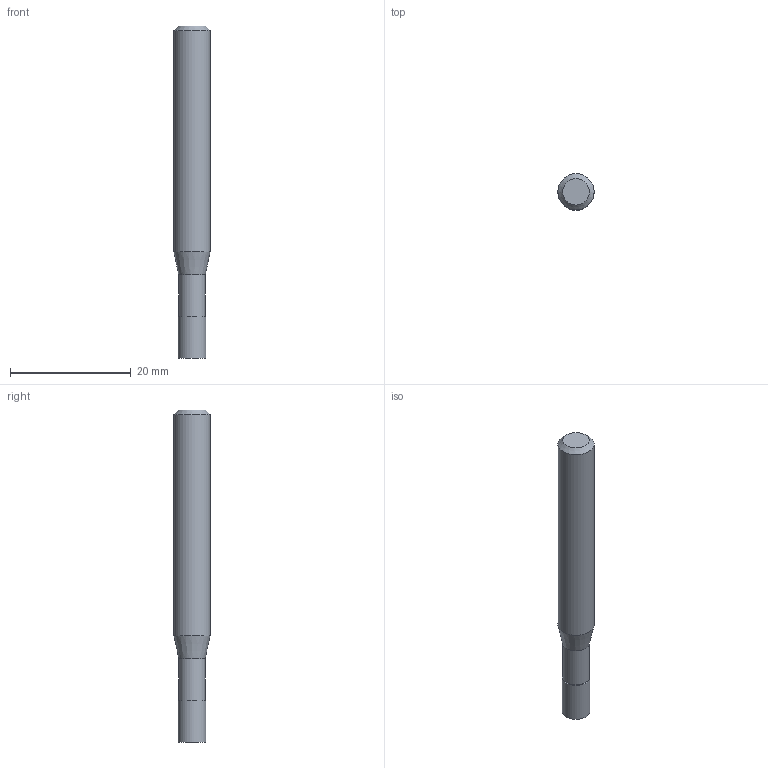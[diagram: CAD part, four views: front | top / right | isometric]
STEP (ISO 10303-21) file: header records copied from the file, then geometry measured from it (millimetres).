
FILE_DESCRIPTION((''),'2;1');
FILE_NAME('C:\Users\nsx150\AppData\Local\Temp\Mastercam 2021\EUJSUNXURU\TEMP.step','2021-04-22T10:28:25',(''),(''),'STEP Write','Mastercam 2021 ... CNC Software, Inc.','');
FILE_SCHEMA(('AUTOMOTIVE_DESIGN'));
Length unit declared in the file: millimetre
Products named in the file (1): None
Bounding box: 6 x 6 x 55 mm (x, y, z)
Volume: 1353.1 mm3; surface area: 1030.7 mm2
Topology: 2 solids, 2 shells, 9 faces, 12 edges, 7 vertices
Faces by surface type: plane 4, cylinder 3, cone 2
Full cylindrical faces by diameter (mm): 4.4 x1, 4.6 x1, 6 x1
Entity records: 211 total; most frequent: DIRECTION 36, CARTESIAN_POINT 25, AXIS2_PLACEMENT_3D 18, ORIENTED_EDGE 14, EDGE_LOOP 14, STYLED_ITEM 12, ADVANCED_FACE 9, FACE_BOUND 8
